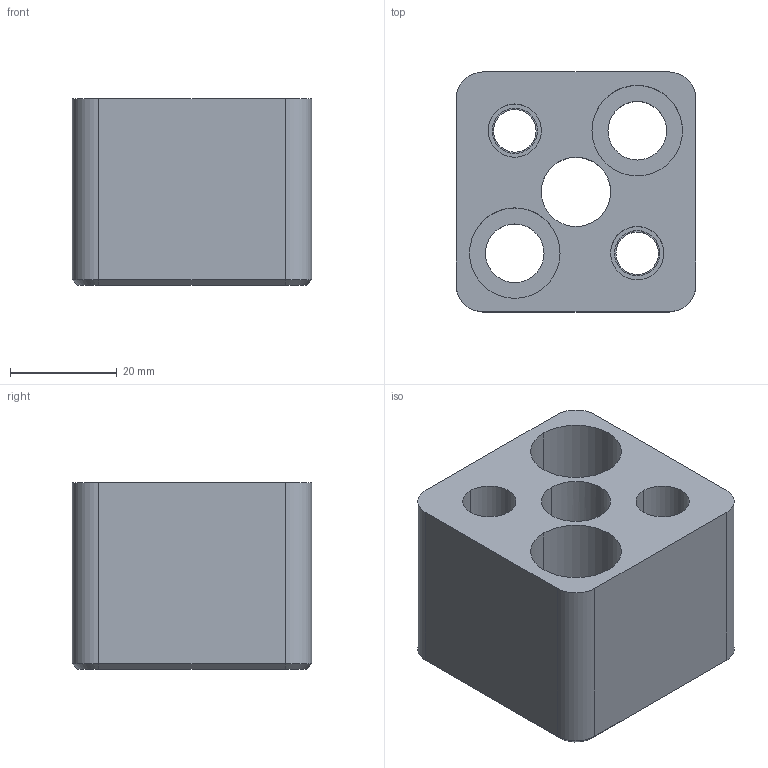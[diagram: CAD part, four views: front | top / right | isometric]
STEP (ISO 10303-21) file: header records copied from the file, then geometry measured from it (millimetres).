
FILE_DESCRIPTION(/* description */ (''),/* implementation_level */ '2;1');
FILE_NAME(/* name */ '3d_hsa-fn13_04181_r00.stp',/* time_stamp */ '2011-01-10T14:14:36+09:00',/* author */ ('MISUMI'),/* organization */ (''),/* preprocessor_version */ 'ST-DEVELOPER v11',/* originating_system */ 'UGS - NX 5.0',/* authorisation */ '');
FILE_SCHEMA (('CONFIG_CONTROL_DESIGN'));
Length unit declared in the file: millimetre
Products named in the file (1): 3d_hsa-fn13_04181_r00
Bounding box: 45 x 45 x 35 mm (x, y, z)
Volume: 48552.4 mm3; surface area: 15683.3 mm2
Topology: 1 solids, 1 shells, 55 faces, 132 edges, 85 vertices
Faces by surface type: cylinder 29, plane 20, cone 6
Entity records: 1733 total; most frequent: DIRECTION 303, CARTESIAN_POINT 293, ORIENTED_EDGE 264, EDGE_CURVE 132, AXIS2_PLACEMENT_3D 121, VERTEX_POINT 85, EDGE_LOOP 71, CIRCLE 65
